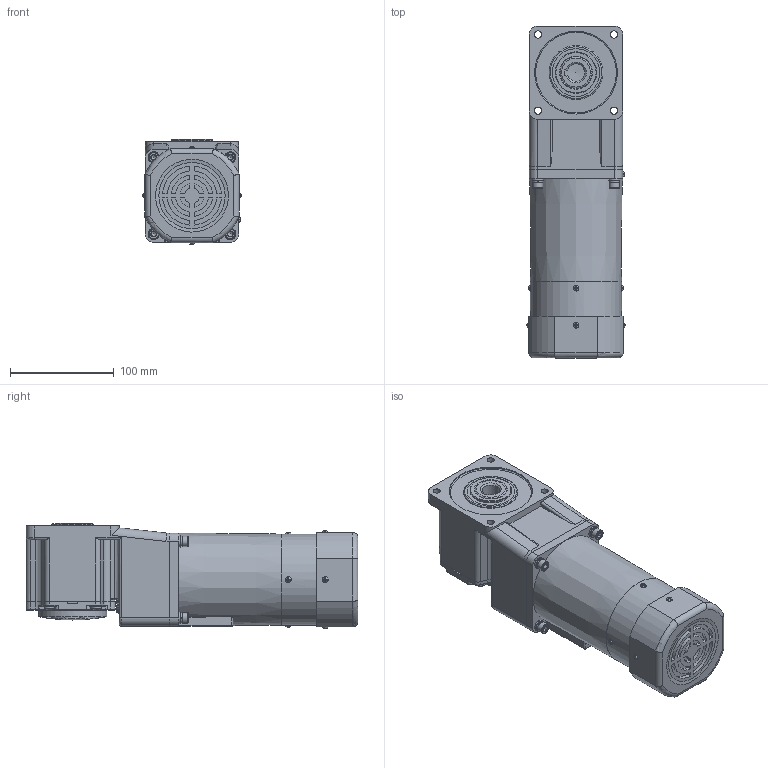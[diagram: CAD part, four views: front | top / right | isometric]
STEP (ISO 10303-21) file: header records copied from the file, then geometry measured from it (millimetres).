
FILE_DESCRIPTION(/* description */ (''),/* implementation_level */ '2;1');
FILE_NAME(/* name */ '90+中空直角-刹车风叶-90W.stp',/* time_stamp */ '2022-09-27T12:36:09+08:00',/* author */ (''),/* organization */ (''),/* preprocessor_version */ 'ST-DEVELOPER v16.7',/* originating_system */ 'SIEMENS PLM Software NX 1899',/* authorisation */ '');
FILE_SCHEMA (('AP203_CONFIGURATION_CONTROLLED_3D_DESIGN_OF_MECHANICAL_PARTS_AND_ASSEMBLIES_MIM_LF { 1 0 10303 403 2 1 2}'));
Length unit declared in the file: millimetre
Products named in the file (1): yf1815905F60uha3
Bounding box: 94.84 x 320.5 x 101.92 mm (x, y, z)
Volume: 2161924.3 mm3; surface area: 175982.1 mm2
Topology: 15 solids, 15 shells, 811 faces, 1939 edges, 1198 vertices
Faces by surface type: plane 443, cylinder 233, torus 63, cone 50, bspline 12, sphere 10
Full cylindrical faces by diameter (mm): 3.3 x2, 4.5 x2, 5 x4, 5.5 x4, 5.795 x4, 6.4 x4, 7 x8, 9.5 x4, 10 x4, 11 x4, 30 x2, 40 x1, 47 x1, 47.5 x1, 52 x1, 60 x1, 60.5 x1, 66 x1, 67 x1, 76 x1, 80 x1, 86 x2, 87.914 x1
Entity records: 25700 total; most frequent: CARTESIAN_POINT 6496, DIRECTION 3718, ORIENTED_EDGE 3514, EDGE_CURVE 1757, AXIS2_PLACEMENT_3D 1412, VERTEX_POINT 1145, EDGE_LOOP 1000, LINE 894
